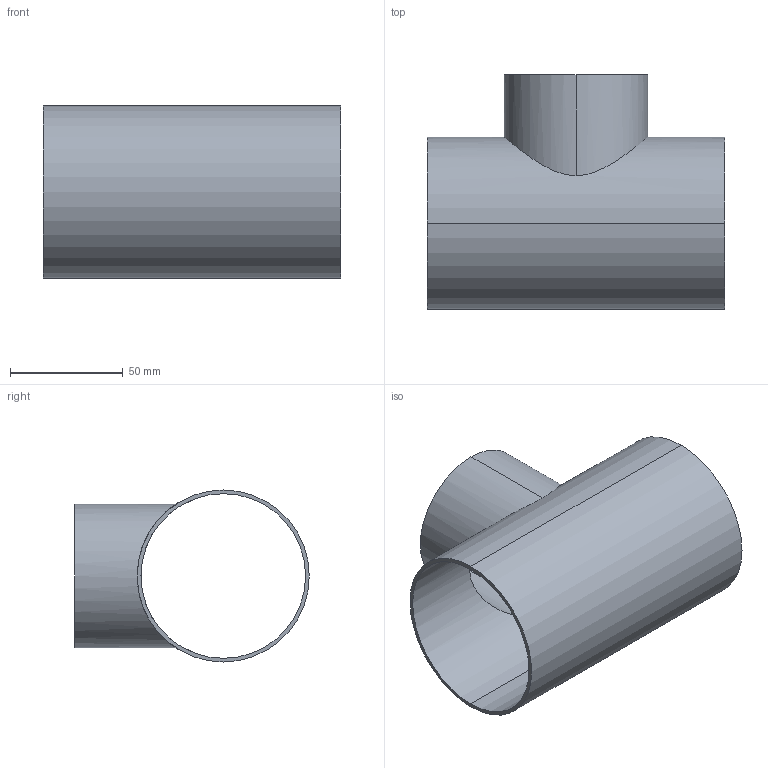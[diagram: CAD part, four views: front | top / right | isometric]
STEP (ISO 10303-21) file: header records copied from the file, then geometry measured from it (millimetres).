
FILE_DESCRIPTION (( 'STEP AP203' ), '1' );
FILE_NAME ('E7RWWW3.0X2.5.STEP', '2018-04-30T18:46:02', ( 'vneprd' ), ( 'Microsoft' ), 'SwSTEP 2.0', 'SolidWorks 2014', '' );
FILE_SCHEMA (( 'CONFIG_CONTROL_DESIGN' ));
Length unit declared in the file: inch
Products named in the file (1): E7RWWW3.0X2.5
Bounding box: 131.75 x 103.89 x 76.2 mm (x, y, z)
Volume: 56972.9 mm3; surface area: 70099.7 mm2
Topology: 1 solids, 1 shells, 11 faces, 24 edges, 16 vertices
Faces by surface type: cylinder 8, plane 3
Entity records: 665 total; most frequent: CARTESIAN_POINT 328, DIRECTION 56, ORIENTED_EDGE 48, EDGE_CURVE 24, AXIS2_PLACEMENT_3D 24, EDGE_LOOP 16, VERTEX_POINT 16, CIRCLE 12
